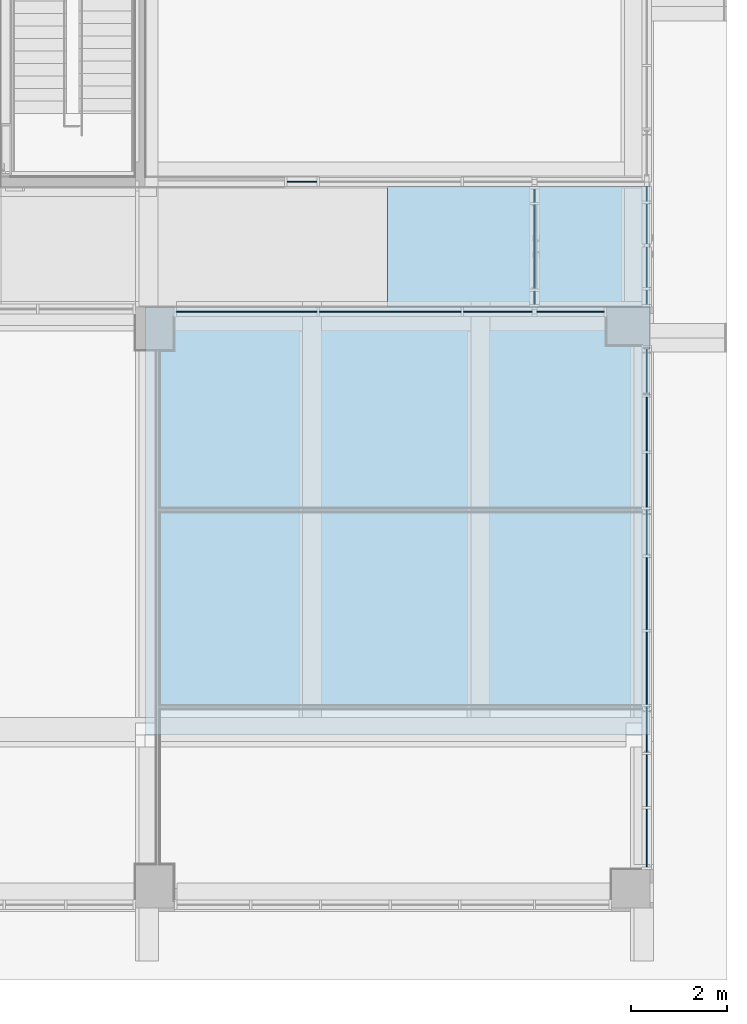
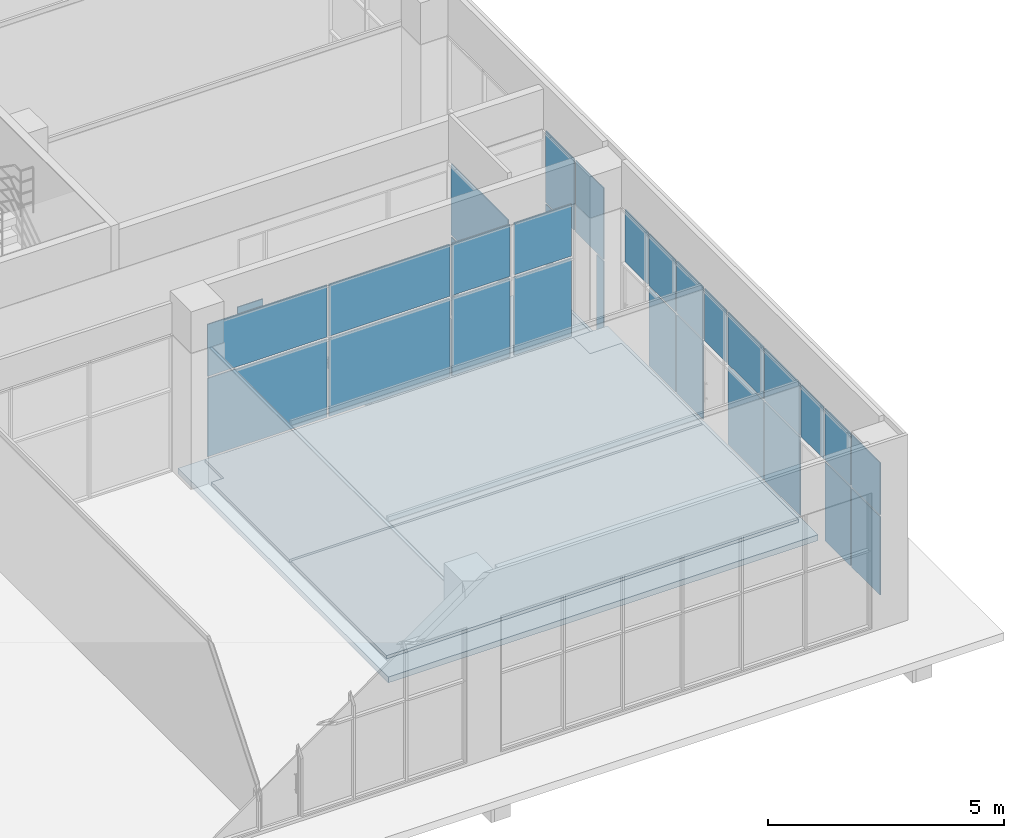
# One storey, part 26 of 100: 31 plates, 6 slabs, 5 elements without a shape of their own.
"""IFC2X3 building model written with IfcOpenShell, lengths in millimetres."""

from ifc_helpers import new_model, entity, si_unit, converted_unit, derived_unit, direction, frame, frame_2d, origin, origin_2d_with_axis, place, context, subcontext, project, spatial, polyline, rectangle, outline, extrude, source, transform, mapped, material, layer, layer_set, layer_usage, type_object, type_shapes, element, aggregate, save


model = new_model("IFC2X3")

# Units and contexts
model_context = context("Model", 3, precision=0.01, world=origin(), true_north=direction((6.123031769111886e-17, 1.0)))
body_context = subcontext(model_context, "Body", "Model", "MODEL_VIEW")
ifc_project = project(units=[si_unit("LENGTHUNIT", "METRE", prefix="MILLI"), si_unit("AREAUNIT", "SQUARE_METRE"), si_unit("VOLUMEUNIT", "CUBIC_METRE"), converted_unit("PLANEANGLEUNIT", "DEGREE", entity("IfcRatioMeasure", 0.017453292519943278), si_unit("PLANEANGLEUNIT", "RADIAN"), dimensions=[0, 0, 0, 0, 0, 0, 0]), si_unit("MASSUNIT", "GRAM", prefix="KILO"), derived_unit("MASSDENSITYUNIT", [(si_unit("MASSUNIT", "GRAM", prefix="KILO"), 1), (si_unit("LENGTHUNIT", "METRE"), -3)]), derived_unit("MOMENTOFINERTIAUNIT", [(si_unit("LENGTHUNIT", "METRE"), 4)]), si_unit("TIMEUNIT", "SECOND"), si_unit("FREQUENCYUNIT", "HERTZ"), si_unit("THERMODYNAMICTEMPERATUREUNIT", "DEGREE_CELSIUS"), derived_unit("THERMALTRANSMITTANCEUNIT", [(si_unit("MASSUNIT", "GRAM", prefix="KILO"), 1), (si_unit("THERMODYNAMICTEMPERATUREUNIT", "KELVIN"), -1), (si_unit("TIMEUNIT", "SECOND"), -3)]), derived_unit("VOLUMETRICFLOWRATEUNIT", [(si_unit("LENGTHUNIT", "METRE"), 3), (si_unit("TIMEUNIT", "SECOND"), -1)]), derived_unit("MASSFLOWRATEUNIT", [(si_unit("MASSUNIT", "GRAM", prefix="KILO"), 1), (si_unit("TIMEUNIT", "SECOND"), -1)]), derived_unit("ROTATIONALFREQUENCYUNIT", [(si_unit("TIMEUNIT", "SECOND"), -1)]), si_unit("ELECTRICCURRENTUNIT", "AMPERE"), si_unit("ELECTRICVOLTAGEUNIT", "VOLT"), si_unit("POWERUNIT", "WATT"), si_unit("FORCEUNIT", "NEWTON", prefix="KILO"), si_unit("ILLUMINANCEUNIT", "LUX"), si_unit("LUMINOUSFLUXUNIT", "LUMEN"), si_unit("LUMINOUSINTENSITYUNIT", "CANDELA"), derived_unit("USERDEFINED", [(si_unit("MASSUNIT", "GRAM", prefix="KILO"), -1), (si_unit("LENGTHUNIT", "METRE"), -2), (si_unit("TIMEUNIT", "SECOND"), 3), (si_unit("LUMINOUSFLUXUNIT", "LUMEN"), 1)]), derived_unit("SOUNDPOWERUNIT", [(si_unit("MASSUNIT", "GRAM", prefix="KILO"), 1), (si_unit("LENGTHUNIT", "METRE"), 2), (si_unit("TIMEUNIT", "SECOND"), -3)]), derived_unit("SOUNDPRESSUREUNIT", [(si_unit("MASSUNIT", "GRAM", prefix="KILO"), 1), (si_unit("LENGTHUNIT", "METRE"), -1), (si_unit("TIMEUNIT", "SECOND"), -2)]), derived_unit("LINEARVELOCITYUNIT", [(si_unit("LENGTHUNIT", "METRE"), 1), (si_unit("TIMEUNIT", "SECOND"), -1)]), si_unit("PRESSUREUNIT", "PASCAL"), derived_unit("USERDEFINED", [(si_unit("LENGTHUNIT", "METRE"), -2), (si_unit("MASSUNIT", "GRAM", prefix="KILO"), 1), (si_unit("TIMEUNIT", "SECOND"), -2)]), derived_unit("LINEARFORCEUNIT", [(si_unit("MASSUNIT", "GRAM", prefix="KILO"), 1), (si_unit("LENGTHUNIT", "METRE"), 1), (si_unit("TIMEUNIT", "SECOND"), -2), (si_unit("LENGTHUNIT", "METRE"), -1)]), derived_unit("PLANARFORCEUNIT", [(si_unit("MASSUNIT", "GRAM", prefix="KILO"), 1), (si_unit("LENGTHUNIT", "METRE"), 1), (si_unit("TIMEUNIT", "SECOND"), -2), (si_unit("LENGTHUNIT", "METRE"), -2)])], contexts=[model_context])

# Site, building, storey
site_placement = place(None, frame((-14167.972527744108, -657.2125860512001, 0.0)))
site = spatial("IfcSite", under=ifc_project, at=site_placement, Name="Default", CompositionType="ELEMENT")
building_placement = place(site_placement, origin())
building = spatial("IfcBuilding", under=site, at=building_placement, Name="Sample Building", CompositionType="ELEMENT")
storey_placement = place(building_placement, origin())
storey = spatial("IfcBuildingStorey", under=building, at=storey_placement, Name="지상 1층", CompositionType="ELEMENT", Elevation=0.0)

# Slabs
ifc_material_1 = material(Name="SL312-화강석물갈기 바닥 (바탕30mm, 마감30mm)")
ifc_layer_1 = layer(ifc_material_1, 80.0)
ifc_layer_set_1 = layer_set([ifc_layer_1], Name="바닥:A1-15-01B-화강석(물갈기) (80mm)")
ifc_layer_usage_1 = layer_usage(ifc_layer_set_1, "AXIS3", "POSITIVE", 0.0)
slab_type_1 = type_object("IfcSlabType", Name="바닥:A1-15-01B-화강석(물갈기) (80mm)", PredefinedType="FLOOR", material=ifc_layer_set_1)
slab_1_placement = place(storey_placement, origin())
element("IfcSlab", 1, at=slab_1_placement, inside=storey, type_object=slab_type_1, material=ifc_layer_usage_1, Name="바닥:A1-15-01B-화강석(물갈기) (80mm)", ObjectType="바닥:A1-15-01B-화강석(물갈기) (80mm)", PredefinedType="FLOOR", context=body_context, shape_type="SweptSolid", body=[
    extrude(rectangle(XDim=2499.9999120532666, YDim=3011.5441634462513, at=frame_2d((-1.1368683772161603e-12, 0.0), x_axis=(1.0, 0.0))), frame((47517.20040941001, 14307.21233911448, -420.0), z_axis=(0.0, 0.0, -1.0), x_axis=(0.0, 1.0, 0.0)), (0.0, 0.0, 1.0), 80.00000000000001),
])
ifc_layer_usage_2 = layer_usage(ifc_layer_set_1, "AXIS3", "POSITIVE", 0.0)
slab_type_2 = type_object("IfcSlabType", Name="바닥:A1-15-01B-화강석(물갈기) (80mm)", PredefinedType="FLOOR", material=ifc_layer_set_1)
slab_2_placement = place(storey_placement, origin())
element("IfcSlab", 2, at=slab_2_placement, inside=storey, type_object=slab_type_2, material=ifc_layer_usage_2, Name="바닥:A1-15-01B-화강석(물갈기) (80mm)", ObjectType="바닥:A1-15-01B-화강석(물갈기) (80mm)", PredefinedType="FLOOR", context=body_context, shape_type="SweptSolid", body=[
    extrude(rectangle(XDim=2498.3023324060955, YDim=2229.9913070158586, at=origin_2d_with_axis()), frame((50227.96814464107, 14306.36354929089, -420.0), z_axis=(0.0, 0.0, -1.0), x_axis=(0.0, 1.0, 0.0)), (0.0, 0.0, 1.0), 80.00000000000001),
])

# Curtain wall, plates
curtain_wall_type = type_object("IfcCurtainWallType", Name="커튼월:CW112-스테인리스 스틸 커튼월", PredefinedType="NOTDEFINED")
curtain_wall_1_placement = place(storey_placement, origin())
curtain_wall_1 = element("IfcCurtainWall", 3, at=curtain_wall_1_placement, inside=storey, type_object=curtain_wall_type, Name="커튼월:CW112-스테인리스 스틸 커튼월", ObjectType="커튼월:CW112-스테인리스 스틸 커튼월")
ifc_material_2 = material(Name="KBIMS-로이유리(코팅)")
plate_type_1 = type_object("IfcPlateType", Name="CW300-THK24.Low-e coating glass:CW300-THK24.Low-e coating glass", PredefinedType="CURTAIN_PANEL", material=ifc_material_2)
shared_shape_1 = source(origin(), body_context, "Body", "SweptSolid", [
    extrude(rectangle(XDim=950.0000000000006, YDim=24.000000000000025, at=origin_2d_with_axis()), frame((0.0, 0.0, 0.0), z_axis=(0.0, 0.0, 1.0), x_axis=(-1.0, 0.0, 0.0)), (0.0, 0.0, 1.0), 1345.000000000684),
])
type_shapes(plate_type_1, [shared_shape_1])
plate_1_placement = place(curtain_wall_1_placement, frame((51405.463828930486, 4267.177624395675, 2205.0), z_axis=(0.0, 0.0, 1.0), x_axis=(0.0, 1.0, 0.0)))
plate_1 = element("IfcPlate", 4, at=plate_1_placement, type_object=plate_type_1, material=ifc_material_2, Name="CW300-THK24.Low-e coating glass:CW300-THK24.Low-e coating glass", ObjectType="CW300-THK24.Low-e coating glass:CW300-THK24.Low-e coating glass", context=body_context, shape_type="MappedRepresentation", body=[
    mapped(shared_shape_1, transform((0.0, 0.0, 0.0), scale=1.0)),
])
plate_2_placement = place(curtain_wall_1_placement, frame((51405.46382893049, 8367.177624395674, 2205.0), z_axis=(0.0, 0.0, 1.0), x_axis=(0.0, 1.0, 0.0)))
plate_2 = element("IfcPlate", 5, at=plate_2_placement, type_object=plate_type_1, material=ifc_material_2, Name="CW300-THK24.Low-e coating glass:CW300-THK24.Low-e coating glass", ObjectType="CW300-THK24.Low-e coating glass:CW300-THK24.Low-e coating glass", context=body_context, shape_type="MappedRepresentation", body=[
    mapped(shared_shape_1, transform((0.0, 0.0, 0.0), scale=1.0)),
])
plate_type_2 = type_object("IfcPlateType", Name="CW300-THK24.Low-e coating glass:CW300-THK24.Low-e coating glass", PredefinedType="CURTAIN_PANEL", material=ifc_material_2)
shared_shape_2 = source(origin(), body_context, "Body", "SweptSolid", [
    extrude(rectangle(XDim=1119.9999999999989, YDim=24.000000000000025, at=origin_2d_with_axis()), frame((0.0, 0.0, 0.0), z_axis=(0.0, 0.0, 1.0), x_axis=(-1.0, 0.0, 0.0)), (0.0, 0.0, 1.0), 2024.9999999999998),
])
type_shapes(plate_type_2, [shared_shape_2])
plate_3_placement = place(curtain_wall_1_placement, frame((51405.4638289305, 9452.177624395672, 130.0), z_axis=(0.0, 0.0, 1.0), x_axis=(0.0, 1.0, 0.0)))
plate_3 = element("IfcPlate", 6, at=plate_3_placement, type_object=plate_type_2, material=ifc_material_2, Name="CW300-THK24.Low-e coating glass:CW300-THK24.Low-e coating glass", ObjectType="CW300-THK24.Low-e coating glass:CW300-THK24.Low-e coating glass", context=body_context, shape_type="MappedRepresentation", body=[
    mapped(shared_shape_2, transform((0.0, 0.0, 0.0), scale=1.0)),
])
plate_4_placement = place(curtain_wall_1_placement, frame((51405.4638289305, 10622.177624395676, 130.0), z_axis=(0.0, 0.0, 1.0), x_axis=(0.0, 1.0, 0.0)))
plate_4 = element("IfcPlate", 7, at=plate_4_placement, type_object=plate_type_2, material=ifc_material_2, Name="CW300-THK24.Low-e coating glass:CW300-THK24.Low-e coating glass", ObjectType="CW300-THK24.Low-e coating glass:CW300-THK24.Low-e coating glass", context=body_context, shape_type="MappedRepresentation", body=[
    mapped(shared_shape_2, transform((0.0, 0.0, 0.0), scale=1.0)),
])
plate_type_3 = type_object("IfcPlateType", Name="CW300-THK24.Low-e coating glass:CW300-THK24.Low-e coating glass", PredefinedType="CURTAIN_PANEL", material=ifc_material_2)
shared_shape_3 = source(origin(), body_context, "Body", "SweptSolid", [
    extrude(rectangle(XDim=1500.0, YDim=24.000000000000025, at=origin_2d_with_axis()), frame((0.0, 0.0, 0.0), z_axis=(0.0, 0.0, 1.0), x_axis=(-1.0, 0.0, 0.0)), (0.0, 0.0, 1.0), 2025.0000000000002),
])
type_shapes(plate_type_3, [shared_shape_3])
plate_5_placement = place(curtain_wall_1_placement, frame((51405.46382893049, 5542.177624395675, 130.0), z_axis=(0.0, 0.0, 1.0), x_axis=(0.0, 1.0, 0.0)))
plate_5 = element("IfcPlate", 8, at=plate_5_placement, type_object=plate_type_3, material=ifc_material_2, Name="CW300-THK24.Low-e coating glass:CW300-THK24.Low-e coating glass", ObjectType="CW300-THK24.Low-e coating glass:CW300-THK24.Low-e coating glass", context=body_context, shape_type="MappedRepresentation", body=[
    mapped(shared_shape_3, transform((0.0, 0.0, 0.0), scale=1.0)),
])
plate_6_placement = place(curtain_wall_1_placement, frame((51405.46382893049, 7092.177624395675, 130.0), z_axis=(0.0, 0.0, 1.0), x_axis=(0.0, 1.0, 0.0)))
plate_6 = element("IfcPlate", 9, at=plate_6_placement, type_object=plate_type_3, material=ifc_material_2, Name="CW300-THK24.Low-e coating glass:CW300-THK24.Low-e coating glass", ObjectType="CW300-THK24.Low-e coating glass:CW300-THK24.Low-e coating glass", context=body_context, shape_type="MappedRepresentation", body=[
    mapped(shared_shape_3, transform((0.0, 0.0, 0.0), scale=1.0)),
])
plate_type_4 = type_object("IfcPlateType", Name="CW300-THK24.Low-e coating glass:CW300-THK24.Low-e coating glass", PredefinedType="CURTAIN_PANEL", material=ifc_material_2)
shared_shape_4 = source(origin(), body_context, "Body", "SweptSolid", [
    extrude(rectangle(XDim=1119.9999999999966, YDim=24.000000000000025, at=origin_2d_with_axis()), frame((0.0, 0.0, 0.0), z_axis=(0.0, 0.0, 1.0), x_axis=(-1.0, 0.0, 0.0)), (0.0, 0.0, 1.0), 1345.000000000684),
])
type_shapes(plate_type_4, [shared_shape_4])
plate_7_placement = place(curtain_wall_1_placement, frame((51405.4638289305, 9452.177624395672, 2205.0), z_axis=(0.0, 0.0, 1.0), x_axis=(0.0, 1.0, 0.0)))
plate_7 = element("IfcPlate", 10, at=plate_7_placement, type_object=plate_type_4, material=ifc_material_2, Name="CW300-THK24.Low-e coating glass:CW300-THK24.Low-e coating glass", ObjectType="CW300-THK24.Low-e coating glass:CW300-THK24.Low-e coating glass", context=body_context, shape_type="MappedRepresentation", body=[
    mapped(shared_shape_4, transform((0.0, 0.0, 0.0), scale=1.0)),
])
plate_8_placement = place(curtain_wall_1_placement, frame((51405.4638289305, 10622.177624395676, 2205.0), z_axis=(0.0, 0.0, 1.0), x_axis=(0.0, 1.0, 0.0)))
plate_8 = element("IfcPlate", 11, at=plate_8_placement, type_object=plate_type_4, material=ifc_material_2, Name="CW300-THK24.Low-e coating glass:CW300-THK24.Low-e coating glass", ObjectType="CW300-THK24.Low-e coating glass:CW300-THK24.Low-e coating glass", context=body_context, shape_type="MappedRepresentation", body=[
    mapped(shared_shape_4, transform((0.0, 0.0, 0.0), scale=1.0)),
])
plate_type_5 = type_object("IfcPlateType", Name="CW300-THK24.Low-e coating glass:CW300-THK24.Low-e coating glass", PredefinedType="CURTAIN_PANEL", material=ifc_material_2)
shared_shape_5 = source(origin(), body_context, "Body", "SweptSolid", [
    extrude(rectangle(XDim=1500.0000000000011, YDim=24.000000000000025, at=origin_2d_with_axis()), frame((0.0, 0.0, 0.0), z_axis=(0.0, 0.0, 1.0), x_axis=(-1.0, 0.0, 0.0)), (0.0, 0.0, 1.0), 1345.0000000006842),
])
type_shapes(plate_type_5, [shared_shape_5])
plate_9_placement = place(curtain_wall_1_placement, frame((51405.46382893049, 5542.177624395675, 2205.0), z_axis=(0.0, 0.0, 1.0), x_axis=(0.0, 1.0, 0.0)))
plate_9 = element("IfcPlate", 12, at=plate_9_placement, type_object=plate_type_5, material=ifc_material_2, Name="CW300-THK24.Low-e coating glass:CW300-THK24.Low-e coating glass", ObjectType="CW300-THK24.Low-e coating glass:CW300-THK24.Low-e coating glass", context=body_context, shape_type="MappedRepresentation", body=[
    mapped(shared_shape_5, transform((0.0, 0.0, 0.0), scale=1.0)),
])
plate_10_placement = place(curtain_wall_1_placement, frame((51405.46382893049, 7092.177624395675, 2205.0), z_axis=(0.0, 0.0, 1.0), x_axis=(0.0, 1.0, 0.0)))
plate_10 = element("IfcPlate", 13, at=plate_10_placement, type_object=plate_type_5, material=ifc_material_2, Name="CW300-THK24.Low-e coating glass:CW300-THK24.Low-e coating glass", ObjectType="CW300-THK24.Low-e coating glass:CW300-THK24.Low-e coating glass", context=body_context, shape_type="MappedRepresentation", body=[
    mapped(shared_shape_5, transform((0.0, 0.0, 0.0), scale=1.0)),
])
plate_type_6 = type_object("IfcPlateType", Name="CW300-THK24.Low-e coating glass:CW300-THK24.Low-e coating glass", PredefinedType="CURTAIN_PANEL", material=ifc_material_2)
shared_shape_6 = source(origin(), body_context, "Body", "SweptSolid", [
    extrude(rectangle(XDim=1204.9831550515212, YDim=24.000000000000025, at=origin_2d_with_axis()), frame((0.0, 0.0, 0.0), z_axis=(0.0, 0.0, 1.0), x_axis=(-1.0, 0.0, 0.0)), (0.0, 0.0, 1.0), 2024.9999999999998),
])
type_shapes(plate_type_6, [shared_shape_6])
plate_11_placement = place(curtain_wall_1_placement, frame((51405.463828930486, 2009.6860468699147, 130.0), z_axis=(0.0, 0.0, 1.0), x_axis=(0.0, 1.0, 0.0)))
plate_11 = element("IfcPlate", 14, at=plate_11_placement, type_object=plate_type_6, material=ifc_material_2, Name="CW300-THK24.Low-e coating glass:CW300-THK24.Low-e coating glass", ObjectType="CW300-THK24.Low-e coating glass:CW300-THK24.Low-e coating glass", context=body_context, shape_type="MappedRepresentation", body=[
    mapped(shared_shape_6, transform((0.0, 0.0, 0.0), scale=1.0)),
])
plate_type_7 = type_object("IfcPlateType", Name="CW300-THK24.Low-e coating glass:CW300-THK24.Low-e coating glass", PredefinedType="CURTAIN_PANEL", material=ifc_material_2)
shared_shape_7 = source(origin(), body_context, "Body", "SweptSolid", [
    extrude(rectangle(XDim=1080.0000000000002, YDim=24.000000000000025, at=origin_2d_with_axis()), frame((0.0, 0.0, 0.0), z_axis=(0.0, 0.0, 1.0), x_axis=(-1.0, 0.0, 0.0)), (0.0, 0.0, 1.0), 2024.9999999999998),
])
type_shapes(plate_type_7, [shared_shape_7])
plate_12_placement = place(curtain_wall_1_placement, frame((51405.463828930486, 3202.1776243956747, 130.0), z_axis=(0.0, 0.0, 1.0), x_axis=(0.0, 1.0, 0.0)))
plate_12 = element("IfcPlate", 15, at=plate_12_placement, type_object=plate_type_7, material=ifc_material_2, Name="CW300-THK24.Low-e coating glass:CW300-THK24.Low-e coating glass", ObjectType="CW300-THK24.Low-e coating glass:CW300-THK24.Low-e coating glass", context=body_context, shape_type="MappedRepresentation", body=[
    mapped(shared_shape_7, transform((0.0, 0.0, 0.0), scale=1.0)),
])
plate_type_8 = type_object("IfcPlateType", Name="CW300-THK24.Low-e coating glass:CW300-THK24.Low-e coating glass", PredefinedType="CURTAIN_PANEL", material=ifc_material_2)
shared_shape_8 = source(origin(), body_context, "Body", "SweptSolid", [
    extrude(rectangle(XDim=1204.9831550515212, YDim=24.000000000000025, at=origin_2d_with_axis()), frame((0.0, 0.0, 0.0), z_axis=(0.0, 0.0, 1.0), x_axis=(-1.0, 0.0, 0.0)), (0.0, 0.0, 1.0), 1345.000000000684),
])
type_shapes(plate_type_8, [shared_shape_8])
plate_13_placement = place(curtain_wall_1_placement, frame((51405.463828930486, 2009.6860468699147, 2205.0), z_axis=(0.0, 0.0, 1.0), x_axis=(0.0, 1.0, 0.0)))
plate_13 = element("IfcPlate", 16, at=plate_13_placement, type_object=plate_type_8, material=ifc_material_2, Name="CW300-THK24.Low-e coating glass:CW300-THK24.Low-e coating glass", ObjectType="CW300-THK24.Low-e coating glass:CW300-THK24.Low-e coating glass", context=body_context, shape_type="MappedRepresentation", body=[
    mapped(shared_shape_8, transform((0.0, 0.0, 0.0), scale=1.0)),
])
plate_type_9 = type_object("IfcPlateType", Name="CW300-THK24.Low-e coating glass:CW300-THK24.Low-e coating glass", PredefinedType="CURTAIN_PANEL", material=ifc_material_2)
shared_shape_9 = source(origin(), body_context, "Body", "SweptSolid", [
    extrude(rectangle(XDim=1080.0000000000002, YDim=24.000000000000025, at=origin_2d_with_axis()), frame((0.0, 0.0, 0.0), z_axis=(0.0, 0.0, 1.0), x_axis=(-1.0, 0.0, 0.0)), (0.0, 0.0, 1.0), 1345.000000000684),
])
type_shapes(plate_type_9, [shared_shape_9])
plate_14_placement = place(curtain_wall_1_placement, frame((51405.463828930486, 3202.1776243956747, 2205.0), z_axis=(0.0, 0.0, 1.0), x_axis=(0.0, 1.0, 0.0)))
plate_14 = element("IfcPlate", 17, at=plate_14_placement, type_object=plate_type_9, material=ifc_material_2, Name="CW300-THK24.Low-e coating glass:CW300-THK24.Low-e coating glass", ObjectType="CW300-THK24.Low-e coating glass:CW300-THK24.Low-e coating glass", context=body_context, shape_type="MappedRepresentation", body=[
    mapped(shared_shape_9, transform((0.0, 0.0, 0.0), scale=1.0)),
])
plate_type_10 = type_object("IfcPlateType", Name="CW300-THK24.Low-e coating glass:CW300-THK24.Low-e coating glass", PredefinedType="CURTAIN_PANEL", material=ifc_material_2)
shared_shape_10 = source(origin(), body_context, "Body", "SweptSolid", [
    extrude(rectangle(XDim=975.0354145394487, YDim=24.000000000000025, at=origin_2d_with_axis()), frame((0.0, 0.0, 0.0), z_axis=(0.0, 0.0, 1.0), x_axis=(-1.0, 0.0, 0.0)), (0.0, 0.0, 1.0), 1345.0000000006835),
])
type_shapes(plate_type_10, [shared_shape_10])
plate_15_placement = place(curtain_wall_1_placement, frame((51405.4638289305, 11719.695331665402, 2205.0), z_axis=(0.0, 0.0, 1.0), x_axis=(0.0, 1.0, 0.0)))
plate_15 = element("IfcPlate", 18, at=plate_15_placement, type_object=plate_type_10, material=ifc_material_2, Name="CW300-THK24.Low-e coating glass:CW300-THK24.Low-e coating glass", ObjectType="CW300-THK24.Low-e coating glass:CW300-THK24.Low-e coating glass", context=body_context, shape_type="MappedRepresentation", body=[
    mapped(shared_shape_10, transform((0.0, 0.0, 0.0), scale=1.0)),
])
aggregate(curtain_wall_1, [plate_11, plate_12, plate_5, plate_6, plate_3, plate_4, plate_13, plate_14, plate_1, plate_9, plate_10, plate_2, plate_7, plate_8, plate_15])

curtain_wall_2_placement = place(storey_placement, origin())
curtain_wall_2 = element("IfcCurtainWall", 19, at=curtain_wall_2_placement, inside=storey, type_object=curtain_wall_type, Name="커튼월:CW112-스테인리스 스틸 커튼월", ObjectType="커튼월:CW112-스테인리스 스틸 커튼월")
plate_type_11 = type_object("IfcPlateType", Name="CW300-THK24.Low-e coating glass:CW300-THK24.Low-e coating glass", PredefinedType="CURTAIN_PANEL", material=ifc_material_2)
shared_shape_11 = source(origin(), body_context, "Body", "SweptSolid", [
    extrude(rectangle(XDim=299.9999999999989, YDim=24.000000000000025, at=origin_2d_with_axis()), frame((0.0, 0.0, 0.0), z_axis=(0.0, 0.0, 1.0), x_axis=(-1.0, 0.0, 0.0)), (0.0, 0.0, 1.0), 2025.0000000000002),
])
type_shapes(plate_type_11, [shared_shape_11])
plate_16_placement = place(curtain_wall_2_placement, frame((51405.46382893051, 13257.21238308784, -370.0), z_axis=(0.0, 0.0, 1.0), x_axis=(0.0, 1.0, 0.0)))
plate_16 = element("IfcPlate", 20, at=plate_16_placement, type_object=plate_type_11, material=ifc_material_2, Name="CW300-THK24.Low-e coating glass:CW300-THK24.Low-e coating glass", ObjectType="CW300-THK24.Low-e coating glass:CW300-THK24.Low-e coating glass", context=body_context, shape_type="MappedRepresentation", body=[
    mapped(shared_shape_11, transform((0.0, 0.0, 0.0), scale=1.0)),
])
plate_type_12 = type_object("IfcPlateType", Name="CW300-THK24.Low-e coating glass:CW300-THK24.Low-e coating glass", PredefinedType="CURTAIN_PANEL", material=ifc_material_2)
shared_shape_12 = source(origin(), body_context, "Body", "SweptSolid", [
    extrude(rectangle(XDim=299.96532925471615, YDim=24.000000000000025, at=origin_2d_with_axis()), frame((0.0, 0.0, 0.0), z_axis=(0.0, 0.0, 1.0), x_axis=(-1.0, 0.0, 0.0)), (0.0, 0.0, 1.0), 2025.0000000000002),
])
type_shapes(plate_type_12, [shared_shape_12])
plate_17_placement = place(curtain_wall_2_placement, frame((51405.46382893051, 15407.1950477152, -370.0), z_axis=(0.0, 0.0, 1.0), x_axis=(0.0, 1.0, 0.0)))
plate_17 = element("IfcPlate", 21, at=plate_17_placement, type_object=plate_type_12, material=ifc_material_2, Name="CW300-THK24.Low-e coating glass:CW300-THK24.Low-e coating glass", ObjectType="CW300-THK24.Low-e coating glass:CW300-THK24.Low-e coating glass", context=body_context, shape_type="MappedRepresentation", body=[
    mapped(shared_shape_12, transform((0.0, 0.0, 0.0), scale=1.0)),
])
plate_type_13 = type_object("IfcPlateType", Name="CW300-THK24.Low-e coating glass:CW300-THK24.Low-e coating glass", PredefinedType="CURTAIN_PANEL", material=ifc_material_2)
shared_shape_13 = source(origin(), body_context, "Body", "SweptSolid", [
    extrude(rectangle(XDim=1195.0000000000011, YDim=24.000000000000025, at=origin_2d_with_axis()), frame((0.0, 0.0, 0.0), z_axis=(0.0, 0.0, 1.0), x_axis=(-1.0, 0.0, 0.0)), (0.0, 0.0, 1.0), 1845.0000000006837),
])
type_shapes(plate_type_13, [shared_shape_13])
plate_18_placement = place(curtain_wall_2_placement, frame((51405.46382893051, 13704.712383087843, 1705.0), z_axis=(0.0, 0.0, 1.0), x_axis=(0.0, 1.0, 0.0)))
plate_18 = element("IfcPlate", 22, at=plate_18_placement, type_object=plate_type_13, material=ifc_material_2, Name="CW300-THK24.Low-e coating glass:CW300-THK24.Low-e coating glass", ObjectType="CW300-THK24.Low-e coating glass:CW300-THK24.Low-e coating glass", context=body_context, shape_type="MappedRepresentation", body=[
    mapped(shared_shape_13, transform((0.0, 0.0, 0.0), scale=1.0)),
])
plate_type_14 = type_object("IfcPlateType", Name="CW300-THK24.Low-e coating glass:CW300-THK24.Low-e coating glass", PredefinedType="CURTAIN_PANEL", material=ifc_material_2)
shared_shape_14 = source(origin(), body_context, "Body", "SweptSolid", [
    extrude(rectangle(XDim=1194.9653292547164, YDim=24.000000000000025, at=origin_2d_with_axis()), frame((0.0, 0.0, 0.0), z_axis=(0.0, 0.0, 1.0), x_axis=(-1.0, 0.0, 0.0)), (0.0, 0.0, 1.0), 1845.0000000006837),
])
type_shapes(plate_type_14, [shared_shape_14])
plate_19_placement = place(curtain_wall_2_placement, frame((51405.46382893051, 14959.695047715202, 1705.0), z_axis=(0.0, 0.0, 1.0), x_axis=(0.0, 1.0, 0.0)))
plate_19 = element("IfcPlate", 23, at=plate_19_placement, type_object=plate_type_14, material=ifc_material_2, Name="CW300-THK24.Low-e coating glass:CW300-THK24.Low-e coating glass", ObjectType="CW300-THK24.Low-e coating glass:CW300-THK24.Low-e coating glass", context=body_context, shape_type="MappedRepresentation", body=[
    mapped(shared_shape_14, transform((0.0, 0.0, 0.0), scale=1.0)),
])
aggregate(curtain_wall_2, [plate_16, plate_17, plate_18, plate_19])

curtain_wall_3_placement = place(storey_placement, origin())
curtain_wall_3 = element("IfcCurtainWall", 24, at=curtain_wall_3_placement, inside=storey, type_object=curtain_wall_type, Name="커튼월:CW112-스테인리스 스틸 커튼월", ObjectType="커튼월:CW112-스테인리스 스틸 커튼월")
plate_type_15 = type_object("IfcPlateType", Name="CW300-THK24.Low-e coating glass:CW300-THK24.Low-e coating glass", PredefinedType="CURTAIN_PANEL", material=ifc_material_2)
shared_shape_15 = source(origin(), body_context, "Body", "SweptSolid", [
    extrude(rectangle(XDim=275.0000000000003, YDim=24.000000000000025, at=origin_2d_with_axis()), frame((0.0, 0.0, 0.0), z_axis=(0.0, 0.0, 1.0), x_axis=(-1.0, 0.0, 0.0)), (0.0, 0.0, 1.0), 2025.0000000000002),
])
type_shapes(plate_type_15, [shared_shape_15])
plate_20_placement = place(curtain_wall_3_placement, frame((49067.972491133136, 15369.712295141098, -370.0), z_axis=(0.0, 0.0, 1.0), x_axis=(0.0, -1.0, 0.0)))
plate_20 = element("IfcPlate", 25, at=plate_20_placement, type_object=plate_type_15, material=ifc_material_2, Name="CW300-THK24.Low-e coating glass:CW300-THK24.Low-e coating glass", ObjectType="CW300-THK24.Low-e coating glass:CW300-THK24.Low-e coating glass", context=body_context, shape_type="MappedRepresentation", body=[
    mapped(shared_shape_15, transform((0.0, 0.0, 0.0), scale=1.0)),
])
plate_21_placement = place(curtain_wall_3_placement, frame((49067.972491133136, 13244.712383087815, -370.0), z_axis=(0.0, 0.0, 1.0), x_axis=(0.0, -1.0, 0.0)))
plate_21 = element("IfcPlate", 26, at=plate_21_placement, type_object=plate_type_15, material=ifc_material_2, Name="CW300-THK24.Low-e coating glass:CW300-THK24.Low-e coating glass", ObjectType="CW300-THK24.Low-e coating glass:CW300-THK24.Low-e coating glass", context=body_context, shape_type="MappedRepresentation", body=[
    mapped(shared_shape_15, transform((0.0, 0.0, 0.0), scale=1.0)),
])
plate_type_16 = type_object("IfcPlateType", Name="CW300-THK24.Low-e coating glass:CW300-THK24.Low-e coating glass", PredefinedType="CURTAIN_PANEL", material=ifc_material_2)
shared_shape_16 = source(origin(), body_context, "Body", "SweptSolid", [
    extrude(rectangle(XDim=2399.999912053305, YDim=24.000000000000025, at=origin_2d_with_axis()), frame((0.0, 0.0, 0.0), z_axis=(0.0, 0.0, 1.0), x_axis=(-1.0, 0.0, 0.0)), (0.0, 0.0, 1.0), 1845.0000000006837),
])
type_shapes(plate_type_16, [shared_shape_16])
plate_22_placement = place(curtain_wall_3_placement, frame((49067.972491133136, 14307.212339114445, 1705.0), z_axis=(0.0, 0.0, 1.0), x_axis=(0.0, -1.0, 0.0)))
plate_22 = element("IfcPlate", 27, at=plate_22_placement, type_object=plate_type_16, material=ifc_material_2, Name="CW300-THK24.Low-e coating glass:CW300-THK24.Low-e coating glass", ObjectType="CW300-THK24.Low-e coating glass:CW300-THK24.Low-e coating glass", context=body_context, shape_type="MappedRepresentation", body=[
    mapped(shared_shape_16, transform((0.0, 0.0, 0.0), scale=1.0)),
])
aggregate(curtain_wall_3, [plate_20, plate_21, plate_22])

curtain_wall_4_placement = place(storey_placement, origin())
curtain_wall_4 = element("IfcCurtainWall", 28, at=curtain_wall_4_placement, inside=storey, type_object=curtain_wall_type, Name="커튼월:CW112-스테인리스 스틸 커튼월", ObjectType="커튼월:CW112-스테인리스 스틸 커튼월")
plate_type_17 = type_object("IfcPlateType", Name="CW300-THK24.Low-e coating glass:CW300-THK24.Low-e coating glass", PredefinedType="CURTAIN_PANEL", material=ifc_material_2)
shared_shape_17 = source(origin(), body_context, "Body", "SweptSolid", [
    extrude(rectangle(XDim=1400.0000000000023, YDim=24.000000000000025, at=origin_2d_with_axis()), frame((0.0, 0.0, 0.0), z_axis=(0.0, 0.0, 1.0), x_axis=(-1.0, 0.0, 0.0)), (0.0, 0.0, 1.0), 2024.9999999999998),
])
type_shapes(plate_type_17, [shared_shape_17])
plate_23_placement = place(curtain_wall_4_placement, frame((49817.972491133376, 12957.212383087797, 130.0), z_axis=(0.0, 0.0, 1.0), x_axis=(-1.0, 0.0, 0.0)))
plate_23 = element("IfcPlate", 29, at=plate_23_placement, type_object=plate_type_17, material=ifc_material_2, Name="CW300-THK24.Low-e coating glass:CW300-THK24.Low-e coating glass", ObjectType="CW300-THK24.Low-e coating glass:CW300-THK24.Low-e coating glass", context=body_context, shape_type="MappedRepresentation", body=[
    mapped(shared_shape_17, transform((0.0, 0.0, 0.0), scale=1.0)),
])
plate_type_18 = type_object("IfcPlateType", Name="CW300-THK24.Low-e coating glass:CW300-THK24.Low-e coating glass", PredefinedType="CURTAIN_PANEL", material=ifc_material_2)
shared_shape_18 = source(origin(), body_context, "Body", "SweptSolid", [
    extrude(rectangle(XDim=1424.9999999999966, YDim=24.000000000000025, at=origin_2d_with_axis()), frame((0.0, 0.0, 0.0), z_axis=(0.0, 0.0, 1.0), x_axis=(-1.0, 0.0, 0.0)), (0.0, 0.0, 1.0), 2024.9999999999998),
])
type_shapes(plate_type_18, [shared_shape_18])
plate_24_placement = place(curtain_wall_4_placement, frame((48305.47249113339, 12957.21238308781, 130.0), z_axis=(0.0, 0.0, 1.0), x_axis=(-1.0, 0.0, 0.0)))
plate_24 = element("IfcPlate", 30, at=plate_24_placement, type_object=plate_type_18, material=ifc_material_2, Name="CW300-THK24.Low-e coating glass:CW300-THK24.Low-e coating glass", ObjectType="CW300-THK24.Low-e coating glass:CW300-THK24.Low-e coating glass", context=body_context, shape_type="MappedRepresentation", body=[
    mapped(shared_shape_18, transform((0.0, 0.0, 0.0), scale=1.0)),
])
plate_type_19 = type_object("IfcPlateType", Name="CW300-THK24.Low-e coating glass:CW300-THK24.Low-e coating glass", PredefinedType="CURTAIN_PANEL", material=ifc_material_2)
shared_shape_19 = source(origin(), body_context, "Body", "SweptSolid", [
    extrude(rectangle(XDim=2950.0000000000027, YDim=24.000000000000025, at=origin_2d_with_axis()), frame((0.0, 0.0, 0.0), z_axis=(0.0, 0.0, 1.0), x_axis=(-1.0, 0.0, 0.0)), (0.0, 0.0, 1.0), 2024.9999999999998),
])
type_shapes(plate_type_19, [shared_shape_19])
plate_25_placement = place(curtain_wall_4_placement, frame((46067.97249113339, 12957.212383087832, 130.0), z_axis=(0.0, 0.0, 1.0), x_axis=(-1.0, 0.0, 0.0)))
plate_25 = element("IfcPlate", 31, at=plate_25_placement, type_object=plate_type_19, material=ifc_material_2, Name="CW300-THK24.Low-e coating glass:CW300-THK24.Low-e coating glass", ObjectType="CW300-THK24.Low-e coating glass:CW300-THK24.Low-e coating glass", context=body_context, shape_type="MappedRepresentation", body=[
    mapped(shared_shape_19, transform((0.0, 0.0, 0.0), scale=1.0)),
])
plate_type_20 = type_object("IfcPlateType", Name="CW300-THK24.Low-e coating glass:CW300-THK24.Low-e coating glass", PredefinedType="CURTAIN_PANEL", material=ifc_material_2)
shared_shape_20 = source(origin(), body_context, "Body", "SweptSolid", [
    extrude(rectangle(XDim=2925.000000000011, YDim=24.000000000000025, at=origin_2d_with_axis()), frame((0.0, 0.0, 0.0), z_axis=(0.0, 0.0, 1.0), x_axis=(-1.0, 0.0, 0.0)), (0.0, 0.0, 1.0), 2024.9999999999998),
])
type_shapes(plate_type_20, [shared_shape_20])
plate_26_placement = place(curtain_wall_4_placement, frame((43080.472491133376, 12957.212383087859, 130.0), z_axis=(0.0, 0.0, 1.0), x_axis=(-1.0, 0.0, 0.0)))
plate_26 = element("IfcPlate", 32, at=plate_26_placement, type_object=plate_type_20, material=ifc_material_2, Name="CW300-THK24.Low-e coating glass:CW300-THK24.Low-e coating glass", ObjectType="CW300-THK24.Low-e coating glass:CW300-THK24.Low-e coating glass", context=body_context, shape_type="MappedRepresentation", body=[
    mapped(shared_shape_20, transform((0.0, 0.0, 0.0), scale=1.0)),
])
plate_type_21 = type_object("IfcPlateType", Name="CW300-THK24.Low-e coating glass:CW300-THK24.Low-e coating glass", PredefinedType="CURTAIN_PANEL", material=ifc_material_2)
shared_shape_21 = source(origin(), body_context, "Body", "SweptSolid", [
    extrude(rectangle(XDim=1400.0000000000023, YDim=24.000000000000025, at=origin_2d_with_axis()), frame((0.0, 0.0, 0.0), z_axis=(0.0, 0.0, 1.0), x_axis=(-1.0, 0.0, 0.0)), (0.0, 0.0, 1.0), 1345.000000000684),
])
type_shapes(plate_type_21, [shared_shape_21])
plate_27_placement = place(curtain_wall_4_placement, frame((49817.972491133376, 12957.212383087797, 2205.0), z_axis=(0.0, 0.0, 1.0), x_axis=(-1.0, 0.0, 0.0)))
plate_27 = element("IfcPlate", 33, at=plate_27_placement, type_object=plate_type_21, material=ifc_material_2, Name="CW300-THK24.Low-e coating glass:CW300-THK24.Low-e coating glass", ObjectType="CW300-THK24.Low-e coating glass:CW300-THK24.Low-e coating glass", context=body_context, shape_type="MappedRepresentation", body=[
    mapped(shared_shape_21, transform((0.0, 0.0, 0.0), scale=1.0)),
])
plate_type_22 = type_object("IfcPlateType", Name="CW300-THK24.Low-e coating glass:CW300-THK24.Low-e coating glass", PredefinedType="CURTAIN_PANEL", material=ifc_material_2)
shared_shape_22 = source(origin(), body_context, "Body", "SweptSolid", [
    extrude(rectangle(XDim=1424.9999999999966, YDim=24.000000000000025, at=origin_2d_with_axis()), frame((0.0, 0.0, 0.0), z_axis=(0.0, 0.0, 1.0), x_axis=(-1.0, 0.0, 0.0)), (0.0, 0.0, 1.0), 1345.000000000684),
])
type_shapes(plate_type_22, [shared_shape_22])
plate_28_placement = place(curtain_wall_4_placement, frame((48305.47249113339, 12957.21238308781, 2205.0), z_axis=(0.0, 0.0, 1.0), x_axis=(-1.0, 0.0, 0.0)))
plate_28 = element("IfcPlate", 34, at=plate_28_placement, type_object=plate_type_22, material=ifc_material_2, Name="CW300-THK24.Low-e coating glass:CW300-THK24.Low-e coating glass", ObjectType="CW300-THK24.Low-e coating glass:CW300-THK24.Low-e coating glass", context=body_context, shape_type="MappedRepresentation", body=[
    mapped(shared_shape_22, transform((0.0, 0.0, 0.0), scale=1.0)),
])
plate_type_23 = type_object("IfcPlateType", Name="CW300-THK24.Low-e coating glass:CW300-THK24.Low-e coating glass", PredefinedType="CURTAIN_PANEL", material=ifc_material_2)
shared_shape_23 = source(origin(), body_context, "Body", "SweptSolid", [
    extrude(rectangle(XDim=2950.0000000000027, YDim=24.000000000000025, at=origin_2d_with_axis()), frame((0.0, 0.0, 0.0), z_axis=(0.0, 0.0, 1.0), x_axis=(-1.0, 0.0, 0.0)), (0.0, 0.0, 1.0), 1345.0000000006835),
])
type_shapes(plate_type_23, [shared_shape_23])
plate_29_placement = place(curtain_wall_4_placement, frame((46067.97249113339, 12957.212383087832, 2205.0), z_axis=(0.0, 0.0, 1.0), x_axis=(-1.0, 0.0, 0.0)))
plate_29 = element("IfcPlate", 35, at=plate_29_placement, type_object=plate_type_23, material=ifc_material_2, Name="CW300-THK24.Low-e coating glass:CW300-THK24.Low-e coating glass", ObjectType="CW300-THK24.Low-e coating glass:CW300-THK24.Low-e coating glass", context=body_context, shape_type="MappedRepresentation", body=[
    mapped(shared_shape_23, transform((0.0, 0.0, 0.0), scale=1.0)),
])
plate_type_24 = type_object("IfcPlateType", Name="CW300-THK24.Low-e coating glass:CW300-THK24.Low-e coating glass", PredefinedType="CURTAIN_PANEL", material=ifc_material_2)
shared_shape_24 = source(origin(), body_context, "Body", "SweptSolid", [
    extrude(rectangle(XDim=2925.000000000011, YDim=24.000000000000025, at=origin_2d_with_axis()), frame((0.0, 0.0, 0.0), z_axis=(0.0, 0.0, 1.0), x_axis=(-1.0, 0.0, 0.0)), (0.0, 0.0, 1.0), 1345.0000000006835),
])
type_shapes(plate_type_24, [shared_shape_24])
plate_30_placement = place(curtain_wall_4_placement, frame((43080.472491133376, 12957.212383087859, 2205.0), z_axis=(0.0, 0.0, 1.0), x_axis=(-1.0, 0.0, 0.0)))
plate_30 = element("IfcPlate", 36, at=plate_30_placement, type_object=plate_type_24, material=ifc_material_2, Name="CW300-THK24.Low-e coating glass:CW300-THK24.Low-e coating glass", ObjectType="CW300-THK24.Low-e coating glass:CW300-THK24.Low-e coating glass", context=body_context, shape_type="MappedRepresentation", body=[
    mapped(shared_shape_24, transform((0.0, 0.0, 0.0), scale=1.0)),
])
aggregate(curtain_wall_4, [plate_23, plate_24, plate_25, plate_26, plate_27, plate_28, plate_29, plate_30])

# Curtain wall, plate
curtain_wall_5_placement = place(storey_placement, origin())
curtain_wall_5 = element("IfcCurtainWall", 37, at=curtain_wall_5_placement, inside=storey, type_object=curtain_wall_type, Name="커튼월:CW112-스테인리스 스틸 커튼월", ObjectType="커튼월:CW112-스테인리스 스틸 커튼월")
plate_type_25 = type_object("IfcPlateType", Name="CW300-THK24.Low-e coating glass:CW300-THK24.Low-e coating glass", PredefinedType="CURTAIN_PANEL", material=ifc_material_2)
shared_shape_25 = source(origin(), body_context, "Body", "SweptSolid", [
    extrude(rectangle(XDim=625.0000000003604, YDim=24.000000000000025, at=origin_2d_with_axis()), frame((0.0, 0.0, 0.0), z_axis=(0.0, 0.0, 1.0), x_axis=(-1.0, 0.0, 0.0)), (0.0, 0.0, 1.0), 1505.0),
])
type_shapes(plate_type_25, [shared_shape_25])
plate_31_placement = place(curtain_wall_5_placement, frame((44230.472491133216, 15657.194878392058, 50.0), z_axis=(0.0, 0.0, 1.0), x_axis=(-1.0, 0.0, 0.0)))
plate_31 = element("IfcPlate", 38, at=plate_31_placement, type_object=plate_type_25, material=ifc_material_2, Name="CW300-THK24.Low-e coating glass:CW300-THK24.Low-e coating glass", ObjectType="CW300-THK24.Low-e coating glass:CW300-THK24.Low-e coating glass", context=body_context, shape_type="MappedRepresentation", body=[
    mapped(shared_shape_25, transform((0.0, 0.0, 0.0), scale=1.0)),
])
aggregate(curtain_wall_5, [plate_31])

# Slabs
ifc_material_3 = material(Name="KBIMS-콘크리트")
ifc_layer_2 = layer(ifc_material_3, 150.0)
ifc_layer_set_2 = layer_set([ifc_layer_2], Name="바닥:SL111-철근콘크리트구조 바닥 150mm_S2")
ifc_layer_usage_3 = layer_usage(ifc_layer_set_2, "AXIS3", "POSITIVE", 0.0)
slab_type_3 = type_object("IfcSlabType", Name="바닥:SL111-철근콘크리트구조 바닥 150mm_S2", PredefinedType="FLOOR", material=ifc_layer_set_2)
slab_3_placement = place(storey_placement, origin())
element("IfcSlab", 39, at=slab_3_placement, inside=storey, type_object=slab_type_3, material=ifc_layer_usage_3, Name="바닥:SL111-철근콘크리트구조 바닥 150mm_S2", ObjectType="바닥:SL111-철근콘크리트구조 바닥 150mm_S2", PredefinedType="FLOOR", context=body_context, shape_type="SweptSolid", body=[
    extrude(rectangle(XDim=8899.999999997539, YDim=10500.000030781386, at=frame_2d((0.0, -8.640199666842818e-12), x_axis=(1.0, 0.0))), frame((46217.96381353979, 8607.212383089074, 0.0), z_axis=(0.0, 0.0, -1.0), x_axis=(0.0, 1.0, 0.0)), (0.0, 0.0, 1.0), 150.0),
])
ifc_layer_usage_4 = layer_usage(ifc_layer_set_2, "AXIS3", "POSITIVE", 0.0)
slab_type_4 = type_object("IfcSlabType", Name="바닥:SL111-철근콘크리트구조 바닥 150mm_S2", PredefinedType="FLOOR", material=ifc_layer_set_2)
slab_4_placement = place(storey_placement, origin())
element("IfcSlab", 40, at=slab_4_placement, inside=storey, type_object=slab_type_4, material=ifc_layer_usage_4, Name="바닥:SL111-철근콘크리트구조 바닥 150mm_S2", ObjectType="바닥:SL111-철근콘크리트구조 바닥 150mm_S2", PredefinedType="FLOOR", context=body_context, shape_type="SweptSolid", body=[
    extrude(rectangle(XDim=2499.9998706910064, YDim=5456.544157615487, at=frame_2d((0.0, 8.640199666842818e-12), x_axis=(1.0, 0.0))), frame((48739.70040649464, 14307.212318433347, -500.0), z_axis=(0.0, 0.0, -1.0), x_axis=(0.0, 1.0, 0.0)), (0.0, 0.0, 1.0), 150.0),
])
ifc_material_4 = material(Name="SL341-테라조 바닥 (바탕48mm, 마감32mm)")
ifc_layer_3 = layer(ifc_material_4, 80.0)
ifc_layer_set_3 = layer_set([ifc_layer_3], Name="바닥:A1-14-06B-테라조타일 (80mm)")
ifc_layer_usage_5 = layer_usage(ifc_layer_set_3, "AXIS3", "POSITIVE", 0.0)
slab_type_5 = type_object("IfcSlabType", Name="바닥:A1-14-06B-테라조타일 (80mm)", PredefinedType="FLOOR", material=ifc_layer_set_3)
slab_5_placement = place(storey_placement, origin())
element("IfcSlab", 41, at=slab_5_placement, inside=storey, type_object=slab_type_5, material=ifc_layer_usage_5, Name="바닥:A1-14-06B-테라조타일 (80mm)", ObjectType="바닥:A1-14-06B-테라조타일 (80mm)", PredefinedType="FLOOR", context=body_context, shape_type="SweptSolid", body=[
    extrude(rectangle(XDim=4037.5000022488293, YDim=10074.991337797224, at=frame_2d((-1.3869794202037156e-11, 1.318767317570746e-11), x_axis=(1.0, 0.0))), frame((46305.46816003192, 6775.927618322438, 80.0), z_axis=(0.0, 0.0, -1.0), x_axis=(0.0, 1.0, 0.0)), (0.0, 0.0, 1.0), 80.0),
])
ifc_layer_usage_6 = layer_usage(ifc_layer_set_3, "AXIS3", "POSITIVE", 0.0)
slab_type_6 = type_object("IfcSlabType", Name="바닥:A1-14-06B-테라조타일 (80mm)", PredefinedType="FLOOR", material=ifc_layer_set_3)
slab_6_placement = place(storey_placement, origin())
element("IfcSlab", 42, at=slab_6_placement, inside=storey, type_object=slab_type_6, material=ifc_layer_usage_6, Name="바닥:A1-14-06B-테라조타일 (80mm)", ObjectType="바닥:A1-14-06B-테라조타일 (80mm)", PredefinedType="FLOOR", context=body_context, shape_type="SweptSolid", body=[
    extrude(outline(polyline([(-2700.0260711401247, -4918.747832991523), (600.0086174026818, -4918.747832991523), (600.0086174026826, -4618.74783299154), (1400.0084144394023, -4618.747832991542), (1400.0084144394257, 4381.252161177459), (700.0090392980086, 4381.252161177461), (700.0090392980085, 5156.243504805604), (-2700.026071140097, 5156.243504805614), (-2700.0260711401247, -4918.747832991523)])), frame((46186.720324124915, 11557.20369058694, 80.0), z_axis=(0.0, 0.0, -1.0), x_axis=(0.0, 1.0, 0.0)), (0.0, 0.0, 1.0), 80.0),
])

save(model, "model.ifc")
